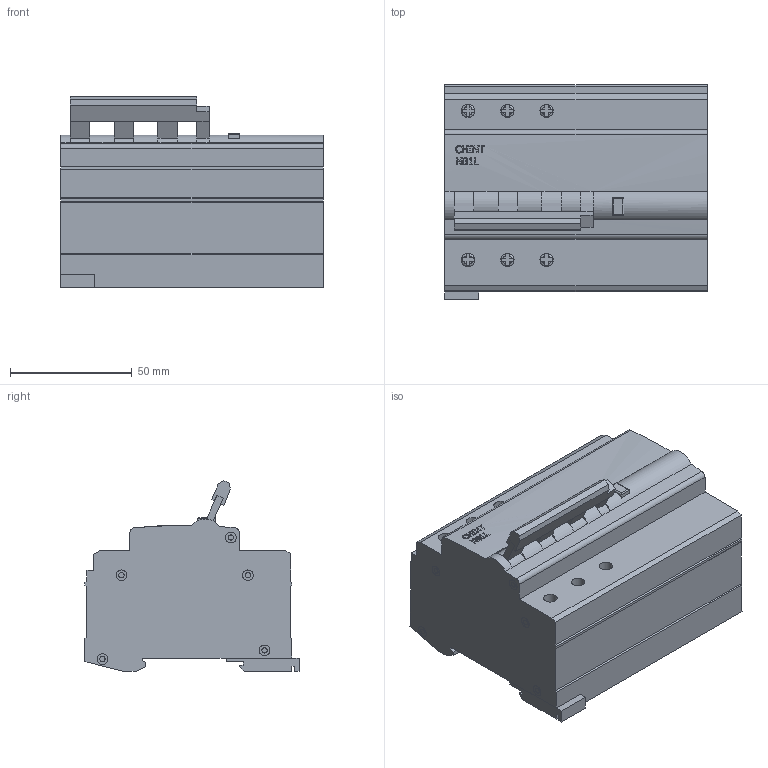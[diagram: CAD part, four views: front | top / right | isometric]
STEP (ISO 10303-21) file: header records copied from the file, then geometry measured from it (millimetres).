
FILE_DESCRIPTION(/* description */ (''),/* implementation_level */ '2;1');
FILE_NAME(/* name */ 'D:\CHINT\NB1L\Диф. автомат NB1L-40 3P C10 30mA тип A 6kA (R) (CHINT).stp',/* time_stamp */ '2017-09-24T19:15:08+04:00',/* author */ ('RSagdiev'),/* organization */ (''),/* preprocessor_version */ 'ST-DEVELOPER v16.5',/* originating_system */ 'Autodesk Inventor 2017',/* authorisation */ '');
FILE_SCHEMA (('AUTOMOTIVE_DESIGN { 1 0 10303 214 3 1 1 }'));
Length unit declared in the file: millimetre
Products named in the file (1): Диф. автомат NB1L-40 3P
 C10 30mA тип A 6kA (R) (CHINT)
Bounding box: 108 x 88 x 78.44 mm (x, y, z)
Volume: 474590 mm3; surface area: 50505 mm2
Topology: 15 solids, 15 shells, 406 faces, 987 edges, 651 vertices
Faces by surface type: plane 307, cylinder 62, bspline 31, torus 6
Full cylindrical faces by diameter (mm): 2.1 x3, 2.2 x11, 4.4 x10, 5.5 x6
Entity records: 12262 total; most frequent: CARTESIAN_POINT 2766, DIRECTION 1925, ORIENTED_EDGE 1890, EDGE_CURVE 945, AXIS2_PLACEMENT_3D 666, VERTEX_POINT 645, LINE 593, VECTOR 593
